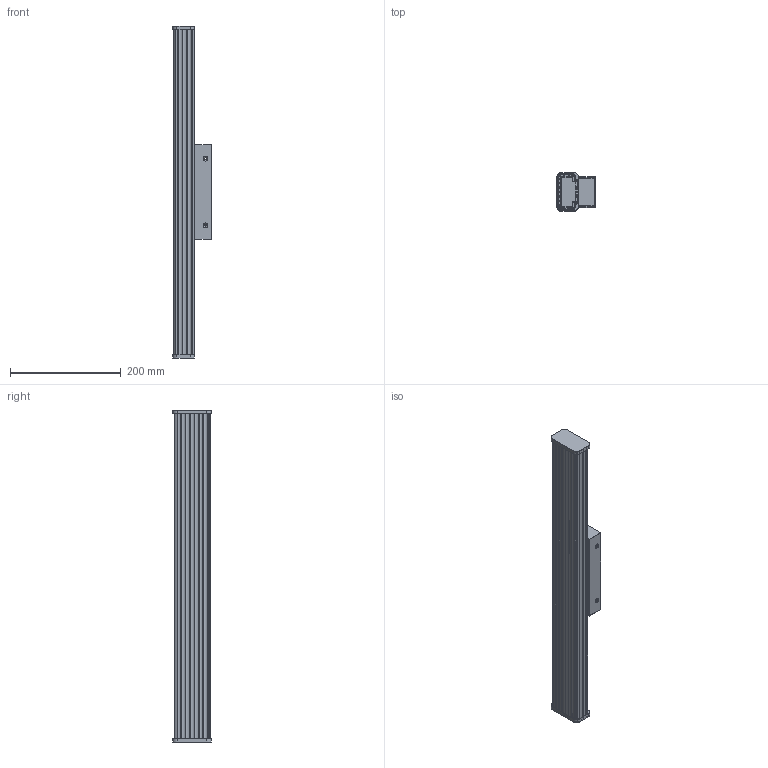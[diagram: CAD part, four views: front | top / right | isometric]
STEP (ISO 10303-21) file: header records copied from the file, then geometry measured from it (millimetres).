
FILE_DESCRIPTION (( 'STEP AP214' ), '1' );
FILE_NAME ('DUNE-A3992070.STEP', '2026-01-13T10:41:01', ( '' ), ( '' ), 'SwSTEP 2.0', 'SolidWorks 2025', '' );
FILE_SCHEMA (( 'AUTOMOTIVE_DESIGN' ));
Length unit declared in the file: millimetre
Products named in the file (7): A3992070 W2208B 3D drawing_RPC.STEP; DUNE-A3992070; W2208B______.STEP; W5516________ 191023.STEP; W2208B____-1.STEP; W2208B____.STEP; W2208B____-0.STEP
Assembly tree (7 placements, depth 3):
  DUNE-A3992070
    A3992070 W2208B 3D drawing_RPC.STEP
      W2208B____.STEP
      W2208B____-0.STEP
      W5516________ 191023.STEP  x2
      W2208B____-1.STEP
      W2208B______.STEP
Bounding box: 69.3 x 69 x 599 mm (x, y, z)
Volume: 356310 mm3; surface area: 525111.3 mm2
Topology: 6 solids, 6 shells, 480 faces, 1315 edges, 870 vertices
Faces by surface type: cylinder 261, plane 199, cone 20
Entity records: 13866 total; most frequent: CARTESIAN_POINT 2543, DIRECTION 2447, ORIENTED_EDGE 2306, EDGE_CURVE 1153, AXIS2_PLACEMENT_3D 898, VERTEX_POINT 762, LINE 651, VECTOR 651
